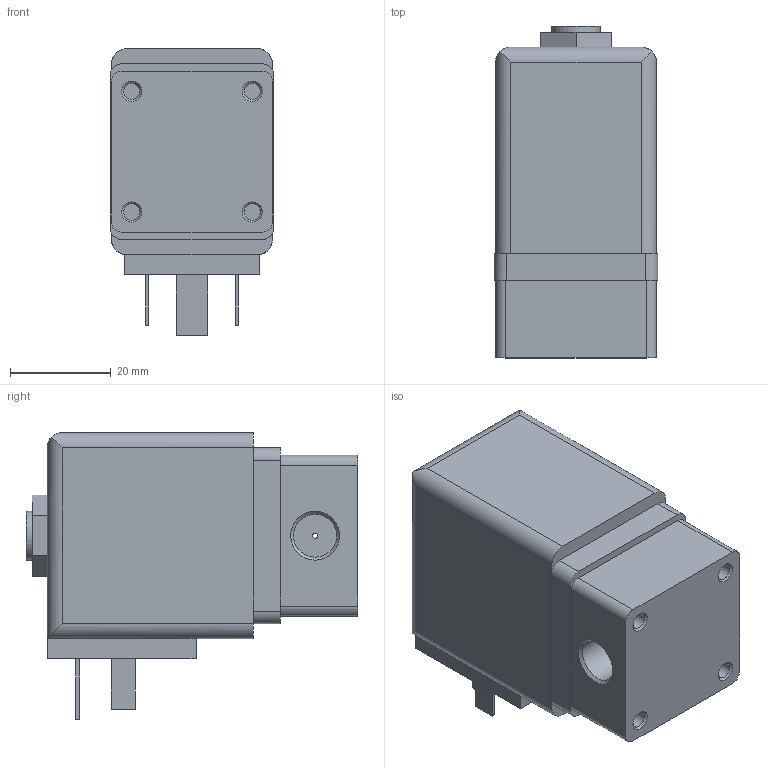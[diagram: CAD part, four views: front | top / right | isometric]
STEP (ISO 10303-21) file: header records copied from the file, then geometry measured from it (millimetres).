
FILE_DESCRIPTION( ( 'STEP AP214' ), ' ' );
FILE_NAME( 'p:/temp/worker_440/6036_3312/app_49_02018071713263054341179192d056f_000000_00_00_000000/format_0/6013-209271-2_2-way_direct_acting_solenoid_valve.stp', '2018-07-17T11:26:30', ( '' ), ( '' ), ' ', 'PARTsolutions', ' ' );
FILE_SCHEMA( ( 'AUTOMOTIVE_DESIGN { 1 0 10303 214 1 1 1 1 }' ) );
Length unit declared in the file: millimetre
Products named in the file (1): HI_6013-209271-2/2-way direct acting solenoid valve
Bounding box: 32.6 x 66 x 57.05 mm (x, y, z)
Volume: 77572.3 mm3; surface area: 12904.8 mm2
Topology: 1 solids, 1 shells, 85 faces, 197 edges, 127 vertices
Faces by surface type: plane 55, cylinder 24, cone 6
Full cylindrical faces by diameter (mm): 1 x1, 2.46 x1, 3.242 x4, 8.566 x2, 9.728 x1
Entity records: 3019 total; most frequent: DIRECTION 409, CARTESIAN_POINT 393, ORIENTED_EDGE 362, EDGE_CURVE 181, AXIS2_PLACEMENT_3D 142, VERTEX_POINT 126, LINE 125, VECTOR 125
